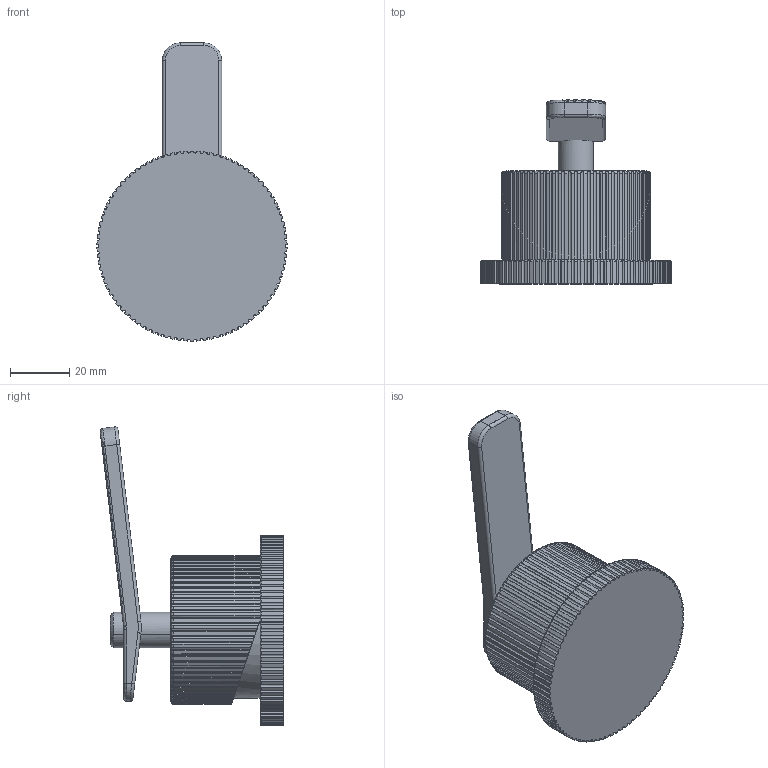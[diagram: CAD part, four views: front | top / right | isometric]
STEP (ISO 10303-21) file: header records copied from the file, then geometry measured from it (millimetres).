
FILE_DESCRIPTION (( 'STEP AP214' ), '1' );
FILE_NAME ('79328710 x architetti.STEP', '2024-10-16T09:36:20', ( '' ), ( '' ), 'SwSTEP 2.0', 'SolidWorks 2020', '' );
FILE_SCHEMA (( 'AUTOMOTIVE_DESIGN' ));
Length unit declared in the file: millimetre
Products named in the file (1): 79328710 x architetti
Bounding box: 63.99 x 61.81 x 100.41 mm (x, y, z)
Volume: 94014.1 mm3; surface area: 19944.4 mm2
Topology: 1 solids, 2 shells, 660 faces, 1934 edges, 1279 vertices
Faces by surface type: cylinder 504, torus 91, plane 47, bspline 14, cone 4
Entity records: 33453 total; most frequent: CARTESIAN_POINT 9188, ORIENTED_EDGE 3864, DIRECTION 3430, EDGE_CURVE 1932, AXIS2_PLACEMENT_3D 1408, VERTEX_POINT 1279, CIRCLE 761, EDGE_LOOP 663
